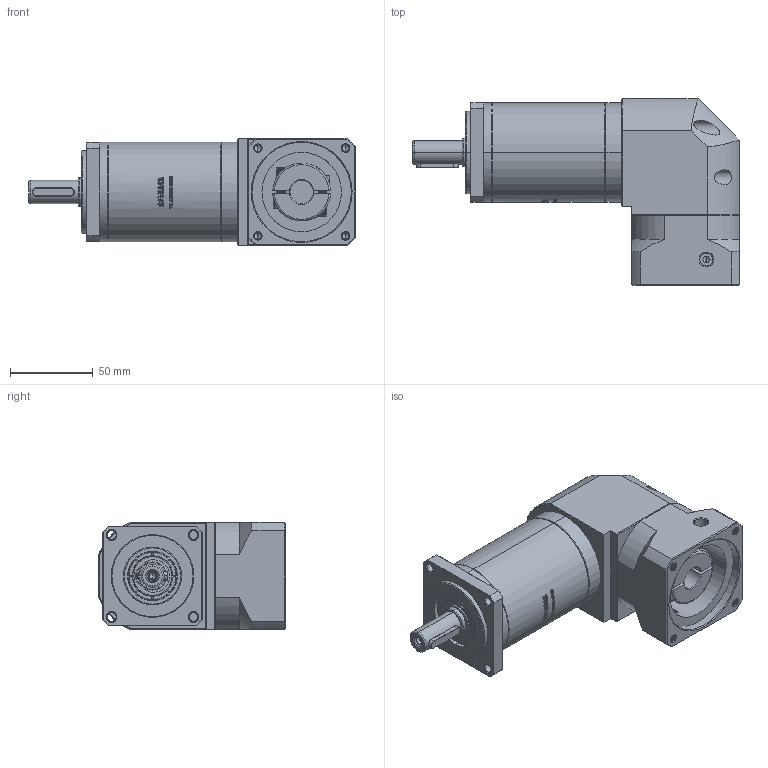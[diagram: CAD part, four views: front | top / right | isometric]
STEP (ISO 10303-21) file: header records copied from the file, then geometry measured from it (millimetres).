
FILE_DESCRIPTION (( 'STEP AP214' ), '1' );
FILE_NAME ('ZFR60-D14-L3-14-60-75-M5.STEP', '2022-04-20T09:06:56', ( '' ), ( 'Microsoft' ), 'SwSTEP 2.0', 'SolidWorks 2016', '' );
FILE_SCHEMA (( 'AUTOMOTIVE_DESIGN' ));
Length unit declared in the file: millimetre
Products named in the file (1): ZFR60-D14-L3-14-60-75-M5
Bounding box: 197.5 x 112.7 x 65 mm (x, y, z)
Volume: 650487.3 mm3; surface area: 86671.2 mm2
Topology: 5 solids, 6 shells, 2692 faces, 7344 edges, 4789 vertices
Faces by surface type: plane 1397, bspline 579, cylinder 402, cone 288, torus 26
Entity records: 149144 total; most frequent: CARTESIAN_POINT 56996, ORIENTED_EDGE 14644, DIRECTION 10548, EDGE_CURVE 7322, VERTEX_POINT 4789, VECTOR 4396, LINE 4396, AXIS2_PLACEMENT_3D 3076
